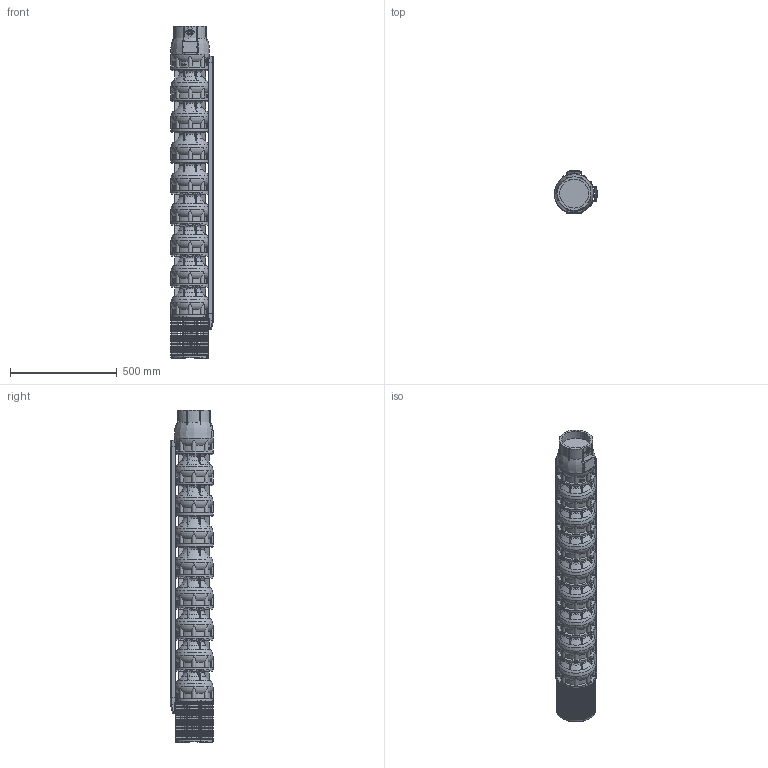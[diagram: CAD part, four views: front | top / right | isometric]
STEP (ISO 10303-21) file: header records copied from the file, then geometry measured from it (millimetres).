
FILE_DESCRIPTION(/* description */ ('Unknown'),/* implementation_level */ '2;1');
FILE_NAME(/* name */ 'VSI134-8_WR_M8-50_SLE',/* time_stamp */ '2023-09-14T15:02:46+02:00',/* author */ ('Unknown'),/* organization */ ('Unknown'),/* preprocessor_version */ 'ST-DEVELOPER v18.102',/* originating_system */ 'Solid Edge',/* authorisation */ 'Unknown');
FILE_SCHEMA (('AUTOMOTIVE_DESIGN {1 0 10303 214 3 1 1}'));
Products named in the file (11): VSI134-8_WR_M8-50_SLE; VSI134_testata; VSI134_diffusore; VSI134_supporto_8×8; VSI134_filtro_A; VSI134_filtro_B; VSI134_terminale_top_copricavo_basso; VSI134_terminale_bottom_copricavo_basso; LOW 134-8; M5X8_UNI7687; VSI134_giunto_8×8
Assembly tree (31 placements, depth 2):
  VSI134-8_WR_M8-50_SLE
    VSI134_testata
    VSI134_diffusore  x8
    VSI134_supporto_8×8
    VSI134_filtro_A
    VSI134_filtro_B
    VSI134_terminale_top_copricavo_basso  x2
    VSI134_terminale_bottom_copricavo_basso  x2
    LOW 134-8  x2
    M5X8_UNI7687  x12
    VSI134_giunto_8×8
Bounding box: 201.57 x 202.09 x 1557 mm (x, y, z)
Volume: 27723901.5 mm3; surface area: 2400099.1 mm2
Topology: 70 solids, 72 shells, 3977 faces, 11217 edges, 7480 vertices
Faces by surface type: plane 2922, cylinder 547, torus 400, cone 63, bspline 31, sphere 14
Full cylindrical faces by diameter (mm): 2.4 x2, 3 x2, 4.2 x16, 5 x12, 5.5 x8, 26 x1, 44 x1, 69 x1, 74 x1, 98 x1, 135.472 x1, 157 x1, 182 x9
Entity records: 85561 total; most frequent: CARTESIAN_POINT 18364, ORIENTED_EDGE 14056, DIRECTION 13492, EDGE_CURVE 7028, VERTEX_POINT 4730, AXIS2_PLACEMENT_3D 4597, LINE 4298, VECTOR 4298
